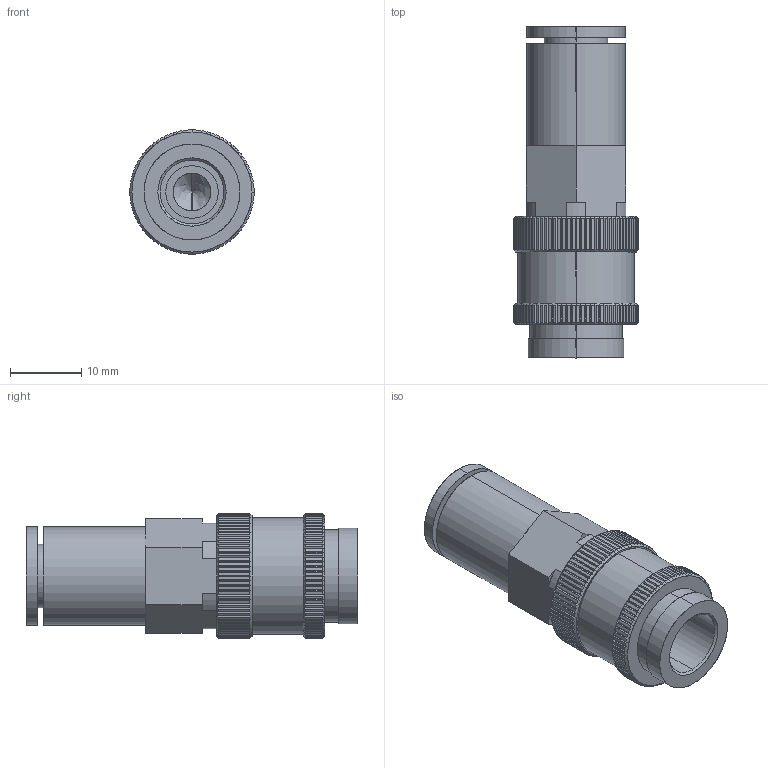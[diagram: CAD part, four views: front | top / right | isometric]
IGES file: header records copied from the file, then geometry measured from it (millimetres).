
Start section: SolidWorks IGES file using analytic representation for surfaces
Global section: file name: C:\Salvar\Planos Compartidos\Acoples Rapidos TZS\TZS-SK.IGS; native system: SolidWorks 2022; preprocessor: SolidWorks 2022; author: osval; date: 220426.125134; units: millimetre
Bounding box: 17.5 x 46.7 x 17.5 mm (x, y, z)
Surface area: 4528.7 mm2 (no closed solid volume)
Topology: 0 solids, 0 shells, 547 faces, 3932 edges, 3930 vertices
Faces by surface type: bspline 346, revolution 201
